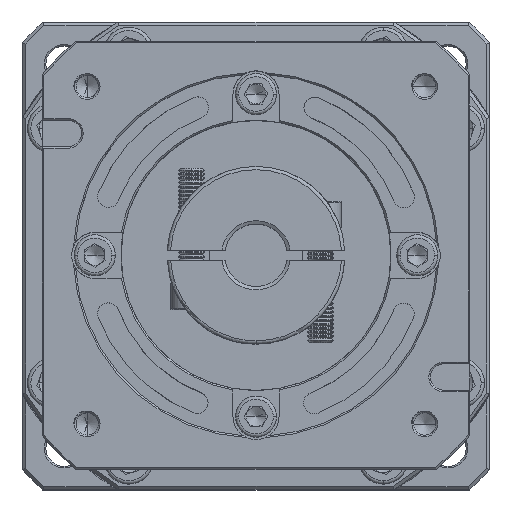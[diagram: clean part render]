
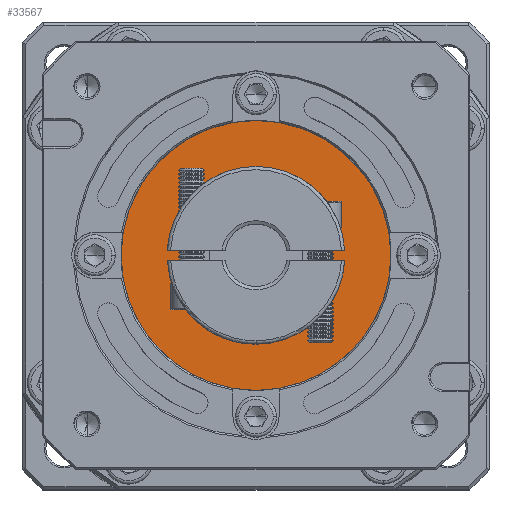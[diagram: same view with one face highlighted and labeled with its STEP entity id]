
A CAD part, top view. The second image highlights one B-rep face of the part: STEP entity #33567.
In plain terms, the highlighted planar face has unit normal (0, 0, 1).
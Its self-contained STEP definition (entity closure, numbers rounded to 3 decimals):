
#5039 = AXIS2_PLACEMENT_3D ( 'NONE', #118650, #36686, #7608 ) ;
#7608 = DIRECTION ( 'NONE',  ( 1., 0., 0. ) ) ;
#7709 = AXIS2_PLACEMENT_3D ( 'NONE', #130766, #18840, #111510 ) ;
#10003 = CARTESIAN_POINT ( 'NONE',  ( -129.535, 80.428, -15.96 ) ) ;
#12410 = VERTEX_POINT ( 'NONE', #84827 ) ;
#12439 = DIRECTION ( 'NONE',  ( 0., 0., 1. ) ) ;
#15049 = CARTESIAN_POINT ( 'NONE',  ( -109.535, 80.428, -15.96 ) ) ;
#15667 = EDGE_LOOP ( 'NONE', ( #43138, #116944 ) ) ;
#18840 = DIRECTION ( 'NONE',  ( 0., 0., 1. ) ) ;
#26295 = CIRCLE ( 'NONE', #5039, 20. ) ;
#26477 = EDGE_CURVE ( 'NONE', #12410, #72317, #91500, .T. ) ;
#29934 = EDGE_CURVE ( 'NONE', #72317, #12410, #127820, .T. ) ;
#31798 = EDGE_LOOP ( 'NONE', ( #129415, #66904 ) ) ;
#33567 = ADVANCED_FACE ( 'NONE', ( #36659, #111978 ), #39970, .T. ) ;
#35337 = AXIS2_PLACEMENT_3D ( 'NONE', #10003, #49371, #100901 ) ;
#36659 = FACE_OUTER_BOUND ( 'NONE', #15667, .T. ) ;
#36686 = DIRECTION ( 'NONE',  ( 0., 0., -1. ) ) ;
#39434 = DIRECTION ( 'NONE',  ( 1., 0., 0. ) ) ;
#39970 = PLANE ( 'NONE',  #35337 ) ;
#43138 = ORIENTED_EDGE ( 'NONE', *, *, #29934, .T. ) ;
#49371 = DIRECTION ( 'NONE',  ( 0., 0., 1. ) ) ;
#54395 = VERTEX_POINT ( 'NONE', #56820 ) ;
#56820 = CARTESIAN_POINT ( 'NONE',  ( -149.535, 80.428, -15.96 ) ) ;
#61352 = CARTESIAN_POINT ( 'NONE',  ( -129.535, 80.428, -15.96 ) ) ;
#61433 = AXIS2_PLACEMENT_3D ( 'NONE', #84576, #12439, #114927 ) ;
#66904 = ORIENTED_EDGE ( 'NONE', *, *, #86189, .T. ) ;
#68187 = AXIS2_PLACEMENT_3D ( 'NONE', #61352, #91460, #39434 ) ;
#72317 = VERTEX_POINT ( 'NONE', #81908 ) ;
#79512 = CIRCLE ( 'NONE', #68187, 20. ) ;
#81908 = CARTESIAN_POINT ( 'NONE',  ( -88.535, 80.428, -15.96 ) ) ;
#84576 = CARTESIAN_POINT ( 'NONE',  ( -129.535, 80.428, -15.96 ) ) ;
#84827 = CARTESIAN_POINT ( 'NONE',  ( -170.535, 80.428, -15.96 ) ) ;
#86189 = EDGE_CURVE ( 'NONE', #54395, #102784, #79512, .T. ) ;
#91460 = DIRECTION ( 'NONE',  ( 0., 0., -1. ) ) ;
#91500 = CIRCLE ( 'NONE', #7709, 41. ) ;
#100901 = DIRECTION ( 'NONE',  ( 1., 0., 0. ) ) ;
#102784 = VERTEX_POINT ( 'NONE', #15049 ) ;
#111510 = DIRECTION ( 'NONE',  ( 1., 0., 0. ) ) ;
#111978 = FACE_BOUND ( 'NONE', #31798, .T. ) ;
#114927 = DIRECTION ( 'NONE',  ( 1., 0., 0. ) ) ;
#116944 = ORIENTED_EDGE ( 'NONE', *, *, #26477, .T. ) ;
#118650 = CARTESIAN_POINT ( 'NONE',  ( -129.535, 80.428, -15.96 ) ) ;
#123440 = EDGE_CURVE ( 'NONE', #102784, #54395, #26295, .T. ) ;
#127820 = CIRCLE ( 'NONE', #61433, 41. ) ;
#129415 = ORIENTED_EDGE ( 'NONE', *, *, #123440, .T. ) ;
#130766 = CARTESIAN_POINT ( 'NONE',  ( -129.535, 80.428, -15.96 ) ) ;
